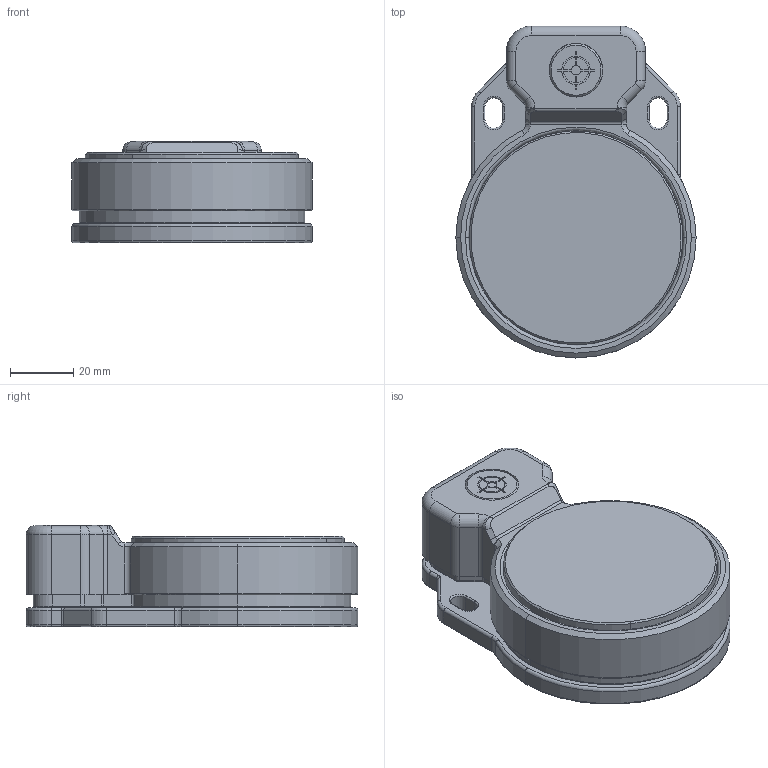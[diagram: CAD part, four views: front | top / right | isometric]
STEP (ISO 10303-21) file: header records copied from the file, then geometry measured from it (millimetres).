
FILE_DESCRIPTION (( 'STEP AP203' ), '1' );
FILE_NAME ('462-Actuator MGL-1SS (step format).STEP', '2014-07-30T15:42:05', ( '' ), ( '' ), 'SwSTEP 2.0', 'SolidWorks 2013', '' );
FILE_SCHEMA (( 'CONFIG_CONTROL_DESIGN' ));
Length unit declared in the file: millimetre
Products named in the file (1): 462-Actuator MGL-1SS (step format)
Bounding box: 76 x 105 x 32 mm (x, y, z)
Volume: 120755 mm3; surface area: 64322.7 mm2
Topology: 6 solids, 6 shells, 650 faces, 1498 edges, 879 vertices
Faces by surface type: cylinder 273, torus 168, plane 132, cone 53, sphere 14, bspline 10
Entity records: 18775 total; most frequent: DIRECTION 3580, CARTESIAN_POINT 3486, ORIENTED_EDGE 2972, AXIS2_PLACEMENT_3D 1495, EDGE_CURVE 1486, VERTEX_POINT 877, CIRCLE 854, EDGE_LOOP 713
